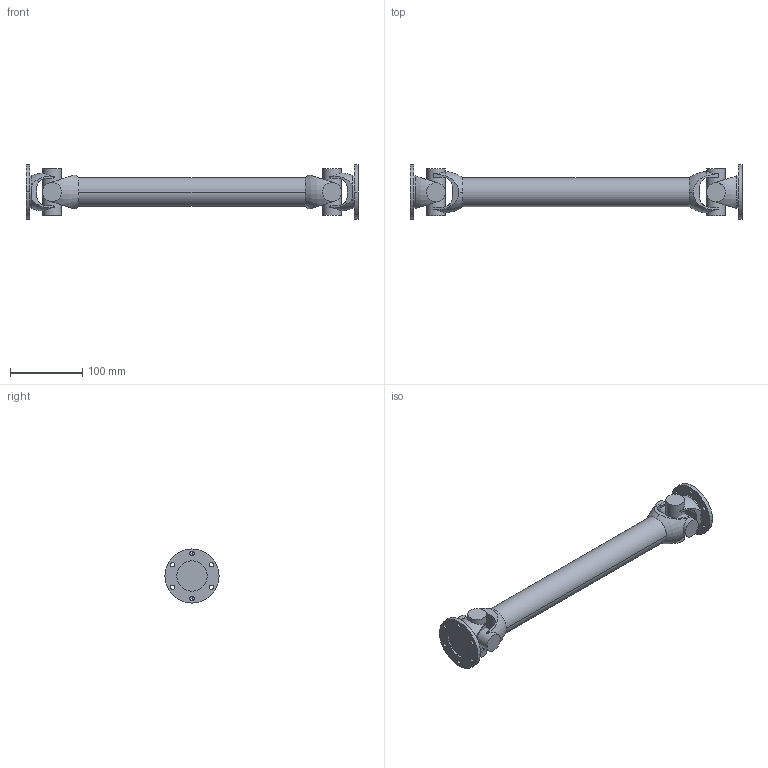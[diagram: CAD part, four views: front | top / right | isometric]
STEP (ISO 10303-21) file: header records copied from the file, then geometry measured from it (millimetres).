
FILE_DESCRIPTION(('Creo Elements/Direct Modeling STEP Export'),'2;1');
FILE_NAME('Gelenkwelle_0_107_200_S-460.stp','2014-10-17T10:31:24',(''),(''),'PTC Creo Elements/Direct Modeling STEP processor for AP214 (Solid Model)','PTC Creo Elements/Direct Modeling 19.0 09-May-2014 (C) Parametric Technology GmbH','');
FILE_SCHEMA(('AUTOMOTIVE_DESIGN { 1 0 10303 214 1 1 1 1 }'));
Length unit declared in the file: millimetre
Products named in the file (3): Welle; Flansche_2; Gelenkwelle_0_107_200_S-460
Assembly tree (3 placements, depth 2):
  Gelenkwelle_0_107_200_S-460
    Flansche_2  x2
    Welle
Bounding box: 460 x 75 x 75.01 mm (x, y, z)
Volume: 686631.8 mm3; surface area: 102964.9 mm2
Topology: 3 solids, 3 shells, 128 faces, 399 edges, 273 vertices
Faces by surface type: plane 62, cylinder 58, torus 8
Entity records: 7514 total; most frequent: CARTESIAN_POINT 5226, ORIENTED_EDGE 542, DIRECTION 395, EDGE_CURVE 271, VERTEX_POINT 185, AXIS2_PLACEMENT_3D 153, EDGE_LOOP 100, VECTOR 89
